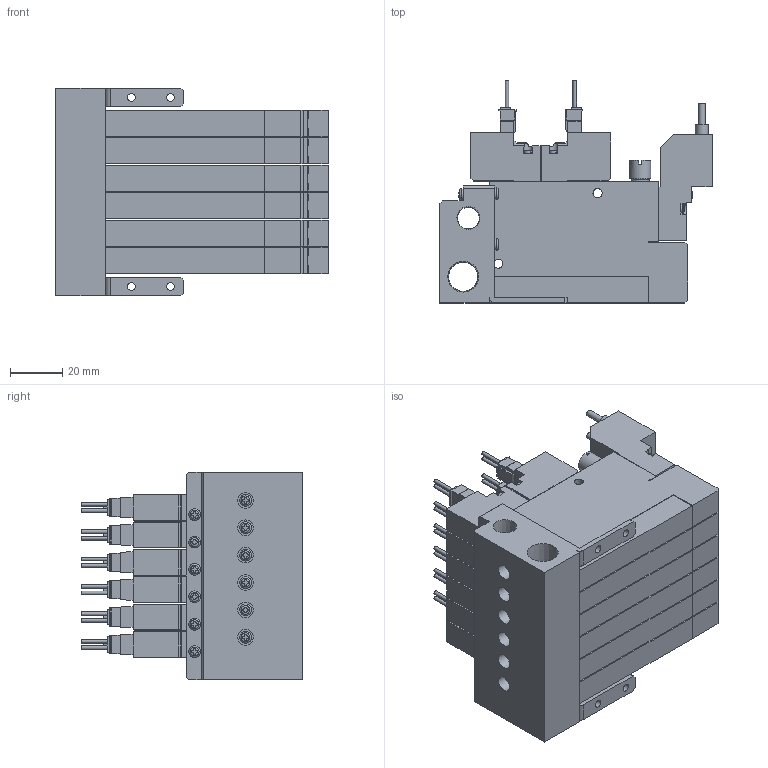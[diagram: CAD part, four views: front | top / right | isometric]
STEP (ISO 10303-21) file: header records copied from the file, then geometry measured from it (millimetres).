
FILE_DESCRIPTION(('STEP AP203'),'1');
FILE_NAME('V8C5SC606_3D.stp','2024-09-04T23:10:58',(' '),(' '),'Spatial InterOp 3D',' ',' ');
FILE_SCHEMA(('CONFIG_CONTROL_DESIGN'));
Length unit declared in the file: millimetre
Products named in the file (5): BSC1M※※V8C5SC606; Solenoid valve S; Pressure Sensor V8; Unit-C; BaseMC60R
Assembly tree (19 placements, depth 2):
  BSC1M※※V8C5SC606
    Solenoid valve S  x6
    Pressure Sensor V8  x6
    Unit-C  x6
    BaseMC60R
Bounding box: 104.5 x 85.05 x 79.5 mm (x, y, z)
Volume: 341743.2 mm3; surface area: 119361.8 mm2
Topology: 19 solids, 19 shells, 2397 faces, 6429 edges, 4254 vertices
Faces by surface type: plane 1847, cylinder 424, cone 58, torus 40, sphere 28
Full cylindrical faces by diameter (mm): 1.4 x24, 2.5 x30, 3 x28, 3.5 x36, 4 x6, 4.134 x12, 4.5 x16, 5 x6, 5.5 x6, 6 x6, 7 x12, 8 x6, 8.422 x1, 11.233 x1
Entity records: 20546 total; most frequent: CARTESIAN_POINT 4786, DIRECTION 3152, ORIENTED_EDGE 3026, EDGE_CURVE 1513, AXIS2_PLACEMENT_3D 1081, VERTEX_POINT 1075, LINE 990, VECTOR 990
